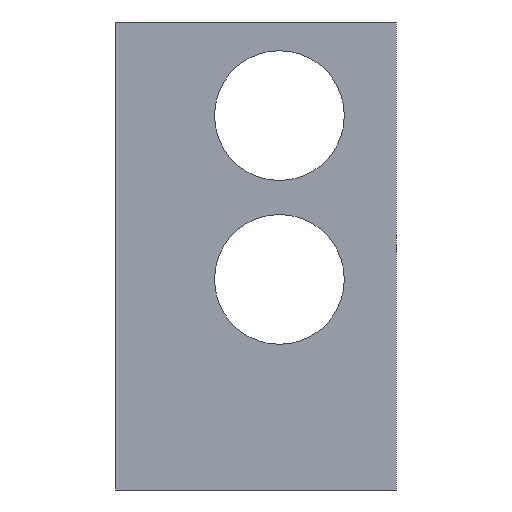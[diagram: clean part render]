
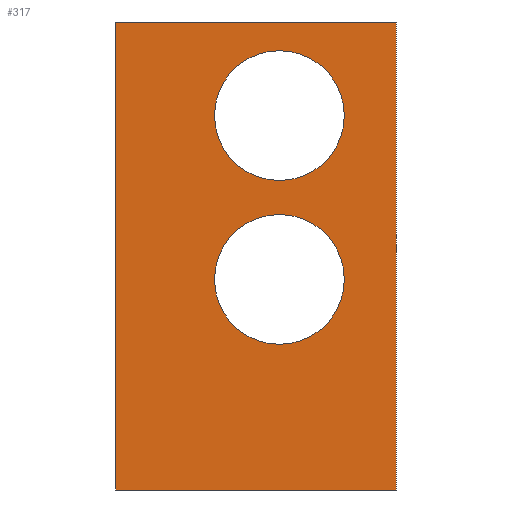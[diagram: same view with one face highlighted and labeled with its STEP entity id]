
A CAD part, front view. The second image highlights one B-rep face of the part: STEP entity #317.
In plain terms, the highlighted planar face has unit normal (0, -1, 0).
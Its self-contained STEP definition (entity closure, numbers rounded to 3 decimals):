
#17=FACE_BOUND('',#64,.T.);
#18=FACE_BOUND('',#65,.T.);
#29=PLANE('',#355);
#45=FACE_OUTER_BOUND('',#63,.T.);
#63=EDGE_LOOP('',(#271,#272,#273,#274));
#64=EDGE_LOOP('',(#275));
#65=EDGE_LOOP('',(#276));
#74=LINE('',#461,#108);
#101=LINE('',#521,#135);
#102=LINE('',#524,#136);
#103=LINE('',#525,#137);
#108=VECTOR('',#378,10.);
#135=VECTOR('',#431,10.);
#136=VECTOR('',#434,10.);
#137=VECTOR('',#435,10.);
#140=CIRCLE('',#337,5.55);
#142=CIRCLE('',#340,5.55);
#148=VERTEX_POINT('',#447);
#150=VERTEX_POINT('',#453);
#152=VERTEX_POINT('',#458);
#153=VERTEX_POINT('',#460);
#173=VERTEX_POINT('',#519);
#174=VERTEX_POINT('',#523);
#177=EDGE_CURVE('',#148,#148,#140,.T.);
#180=EDGE_CURVE('',#150,#150,#142,.T.);
#182=EDGE_CURVE('',#152,#153,#74,.T.);
#213=EDGE_CURVE('',#173,#153,#101,.T.);
#214=EDGE_CURVE('',#174,#173,#102,.T.);
#215=EDGE_CURVE('',#174,#152,#103,.T.);
#271=ORIENTED_EDGE('',*,*,#214,.T.);
#272=ORIENTED_EDGE('',*,*,#213,.T.);
#273=ORIENTED_EDGE('',*,*,#182,.F.);
#274=ORIENTED_EDGE('',*,*,#215,.F.);
#275=ORIENTED_EDGE('',*,*,#177,.T.);
#276=ORIENTED_EDGE('',*,*,#180,.T.);
#317=ADVANCED_FACE('',(#45,#17,#18),#29,.T.);
#337=AXIS2_PLACEMENT_3D('',#449,#366,#367);
#340=AXIS2_PLACEMENT_3D('',#455,#373,#374);
#355=AXIS2_PLACEMENT_3D('',#522,#432,#433);
#366=DIRECTION('center_axis',(0.,1.,0.));
#367=DIRECTION('ref_axis',(-1.,0.,0.));
#373=DIRECTION('center_axis',(0.,1.,0.));
#374=DIRECTION('ref_axis',(-1.,0.,0.));
#378=DIRECTION('',(0.,0.,-1.));
#431=DIRECTION('',(1.,0.,0.));
#432=DIRECTION('center_axis',(0.,-1.,0.));
#433=DIRECTION('ref_axis',(0.,0.,-1.));
#434=DIRECTION('',(0.,0.,-1.));
#435=DIRECTION('',(1.,0.,0.));
#447=CARTESIAN_POINT('',(19.55,0.,6.));
#449=CARTESIAN_POINT('Origin',(14.,0.,6.));
#453=CARTESIAN_POINT('',(19.55,0.,-8.));
#455=CARTESIAN_POINT('Origin',(14.,0.,-8.));
#458=CARTESIAN_POINT('',(24.,0.,14.));
#460=CARTESIAN_POINT('',(24.,0.,-26.));
#461=CARTESIAN_POINT('',(24.,0.,14.));
#519=CARTESIAN_POINT('',(0.,0.,-26.));
#521=CARTESIAN_POINT('',(0.,0.,-26.));
#522=CARTESIAN_POINT('Origin',(0.,0.,14.));
#523=CARTESIAN_POINT('',(0.,0.,14.));
#524=CARTESIAN_POINT('',(0.,0.,14.));
#525=CARTESIAN_POINT('',(0.,0.,14.));
